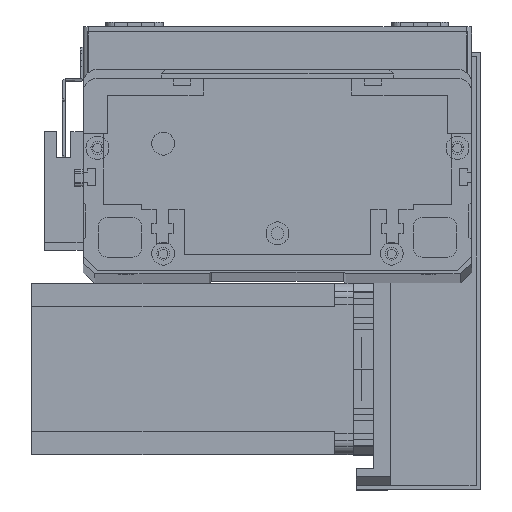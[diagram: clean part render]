
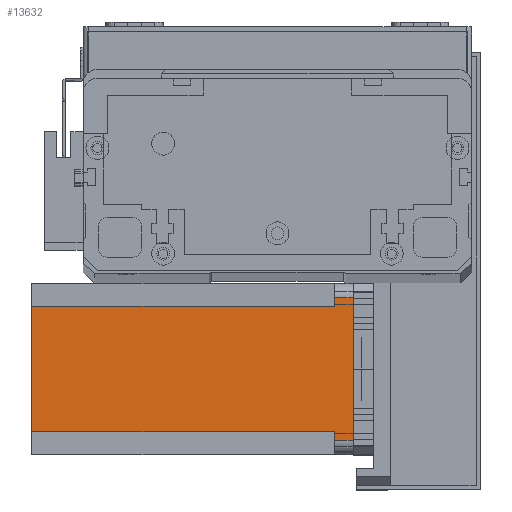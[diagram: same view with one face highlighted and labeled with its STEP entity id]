
A CAD part, top view. The second image highlights one B-rep face of the part: STEP entity #13632.
In plain terms, the highlighted planar face has unit normal (0, 0, 1) as drawn and (0, -1, 0) by its records, which use the part's own axes.
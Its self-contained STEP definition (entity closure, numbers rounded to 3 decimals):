
#75 = VECTOR ( 'NONE', #13656, 1000. ) ;
#810 = VERTEX_POINT ( 'NONE', #24244 ) ;
#909 = VECTOR ( 'NONE', #14981, 1000. ) ;
#1201 = EDGE_CURVE ( 'NONE', #2541, #20075, #4351, .T. ) ;
#1615 = PLANE ( 'NONE',  #13102 ) ;
#2541 = VERTEX_POINT ( 'NONE', #17578 ) ;
#3336 = VECTOR ( 'NONE', #20370, 1000. ) ;
#3976 = CARTESIAN_POINT ( 'NONE',  ( 5., 0., -112.5 ) ) ;
#3997 = ORIENTED_EDGE ( 'NONE', *, *, #28037, .F. ) ;
#4045 = VERTEX_POINT ( 'NONE', #29764 ) ;
#4127 = ORIENTED_EDGE ( 'NONE', *, *, #25427, .F. ) ;
#4351 = LINE ( 'NONE', #13246, #26819 ) ;
#4367 = ORIENTED_EDGE ( 'NONE', *, *, #1201, .T. ) ;
#5392 = DIRECTION ( 'NONE',  ( 1., 0., 0. ) ) ;
#6466 = CARTESIAN_POINT ( 'NONE',  ( 55., 0., 0. ) ) ;
#6471 = DIRECTION ( 'NONE',  ( 0., 0., -1. ) ) ;
#7201 = LINE ( 'NONE', #27285, #75 ) ;
#7373 = LINE ( 'NONE', #24856, #13649 ) ;
#9686 = LINE ( 'NONE', #3976, #3336 ) ;
#9826 = EDGE_CURVE ( 'NONE', #28978, #810, #9686, .T. ) ;
#10430 = EDGE_CURVE ( 'NONE', #29137, #810, #21832, .T. ) ;
#10800 = CARTESIAN_POINT ( 'NONE',  ( 8., 0., -6.5 ) ) ;
#11847 = DIRECTION ( 'NONE',  ( 1., 0., 0. ) ) ;
#12278 = FACE_OUTER_BOUND ( 'NONE', #22025, .T. ) ;
#12608 = CARTESIAN_POINT ( 'NONE',  ( 0., 0., 0. ) ) ;
#13102 = AXIS2_PLACEMENT_3D ( 'NONE', #18177, #20431, #6471 ) ;
#13246 = CARTESIAN_POINT ( 'NONE',  ( 55., 0., -112.5 ) ) ;
#13355 = LINE ( 'NONE', #25583, #24819 ) ;
#13444 = DIRECTION ( 'NONE',  ( 0., 0., 1. ) ) ;
#13632 = ADVANCED_FACE ( 'NONE', ( #12278 ), #1615, .T. ) ;
#13649 = VECTOR ( 'NONE', #13444, 1000. ) ;
#13656 = DIRECTION ( 'NONE',  ( 0., 0., -1. ) ) ;
#13681 = ORIENTED_EDGE ( 'NONE', *, *, #10430, .F. ) ;
#14981 = DIRECTION ( 'NONE',  ( 1., 0., 0. ) ) ;
#15676 = ORIENTED_EDGE ( 'NONE', *, *, #23172, .T. ) ;
#15780 = VECTOR ( 'NONE', #19010, 1000. ) ;
#16214 = ORIENTED_EDGE ( 'NONE', *, *, #18739, .F. ) ;
#16455 = VERTEX_POINT ( 'NONE', #28446 ) ;
#16723 = CARTESIAN_POINT ( 'NONE',  ( 8., 0., -6.5 ) ) ;
#17578 = CARTESIAN_POINT ( 'NONE',  ( 55., 0., -6.5 ) ) ;
#18177 = CARTESIAN_POINT ( 'NONE',  ( 0., 0., -112.5 ) ) ;
#18739 = EDGE_CURVE ( 'NONE', #28978, #20075, #19731, .T. ) ;
#19010 = DIRECTION ( 'NONE',  ( -1., 0., 0. ) ) ;
#19441 = CARTESIAN_POINT ( 'NONE',  ( 0., 0., -112.5 ) ) ;
#19731 = LINE ( 'NONE', #12608, #909 ) ;
#19935 = EDGE_CURVE ( 'NONE', #16455, #4045, #24629, .T. ) ;
#20075 = VERTEX_POINT ( 'NONE', #6466 ) ;
#20347 = VERTEX_POINT ( 'NONE', #28102 ) ;
#20370 = DIRECTION ( 'NONE',  ( 0., 0., -1. ) ) ;
#20431 = DIRECTION ( 'NONE',  ( 0., -1., 0. ) ) ;
#21832 = LINE ( 'NONE', #16723, #15780 ) ;
#22025 = EDGE_LOOP ( 'NONE', ( #15676, #4367, #16214, #30038, #13681, #4127, #26275, #3997 ) ) ;
#23172 = EDGE_CURVE ( 'NONE', #20347, #2541, #13355, .T. ) ;
#23909 = VECTOR ( 'NONE', #5392, 1000. ) ;
#24244 = CARTESIAN_POINT ( 'NONE',  ( 5., 0., -6.5 ) ) ;
#24629 = LINE ( 'NONE', #19441, #23909 ) ;
#24819 = VECTOR ( 'NONE', #11847, 1000. ) ;
#24856 = CARTESIAN_POINT ( 'NONE',  ( 8., 0., -112.5 ) ) ;
#25427 = EDGE_CURVE ( 'NONE', #16455, #29137, #7373, .T. ) ;
#25583 = CARTESIAN_POINT ( 'NONE',  ( 52., 0., -6.5 ) ) ;
#26275 = ORIENTED_EDGE ( 'NONE', *, *, #19935, .T. ) ;
#26819 = VECTOR ( 'NONE', #29414, 1000. ) ;
#27285 = CARTESIAN_POINT ( 'NONE',  ( 52., 0., -112.5 ) ) ;
#28037 = EDGE_CURVE ( 'NONE', #20347, #4045, #7201, .T. ) ;
#28102 = CARTESIAN_POINT ( 'NONE',  ( 52., 0., -6.5 ) ) ;
#28446 = CARTESIAN_POINT ( 'NONE',  ( 8., 0., -112.5 ) ) ;
#28472 = CARTESIAN_POINT ( 'NONE',  ( 5., 0., 0. ) ) ;
#28978 = VERTEX_POINT ( 'NONE', #28472 ) ;
#29137 = VERTEX_POINT ( 'NONE', #10800 ) ;
#29414 = DIRECTION ( 'NONE',  ( 0., 0., 1. ) ) ;
#29764 = CARTESIAN_POINT ( 'NONE',  ( 52., 0., -112.5 ) ) ;
#30038 = ORIENTED_EDGE ( 'NONE', *, *, #9826, .T. ) ;
